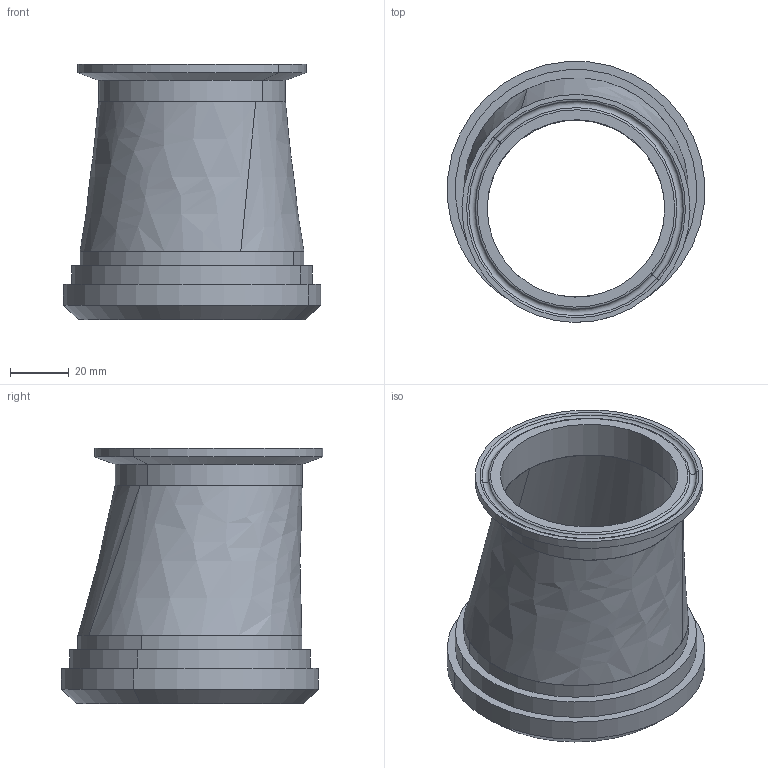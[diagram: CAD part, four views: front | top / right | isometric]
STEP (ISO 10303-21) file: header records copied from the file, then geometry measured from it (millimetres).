
FILE_DESCRIPTION (( 'STEP AP203' ), '1' );
FILE_NAME ('EG32PC 3.0X2.5.STEP', '2021-10-28T12:59:56', ( '' ), ( '' ), 'SwSTEP 2.0', 'SolidWorks 2021', '' );
FILE_SCHEMA (( 'CONFIG_CONTROL_DESIGN' ));
Length unit declared in the file: inch
Products named in the file (4): EG32PC 3.0X2.5; 14PR3.0; EG2CS2.5; E32WW3.0X2.5
Assembly tree (3 placements, depth 2):
  EG32PC 3.0X2.5
    EG2CS2.5
    E32WW3.0X2.5
    14PR3.0
Bounding box: 87.24 x 88.66 x 86.59 mm (x, y, z)
Volume: 52390 mm3; surface area: 45428 mm2
Topology: 3 solids, 3 shells, 37 faces, 74 edges, 46 vertices
Faces by surface type: cylinder 14, plane 9, torus 6, cone 4, bspline 4
Entity records: 2050 total; most frequent: CARTESIAN_POINT 819, DIRECTION 200, ORIENTED_EDGE 148, AXIS2_PLACEMENT_3D 91, EDGE_CURVE 74, CIRCLE 52, EDGE_LOOP 46, VERTEX_POINT 46
